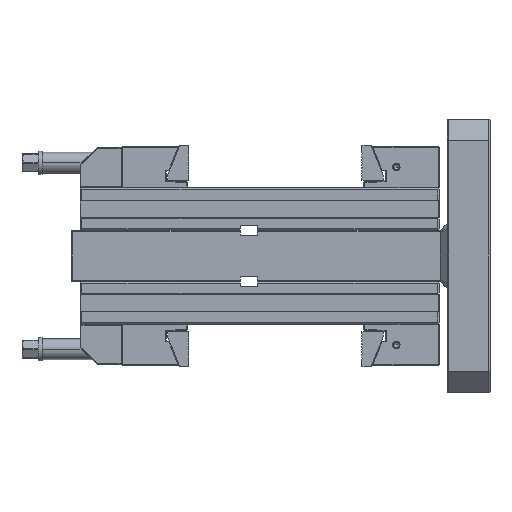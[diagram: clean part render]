
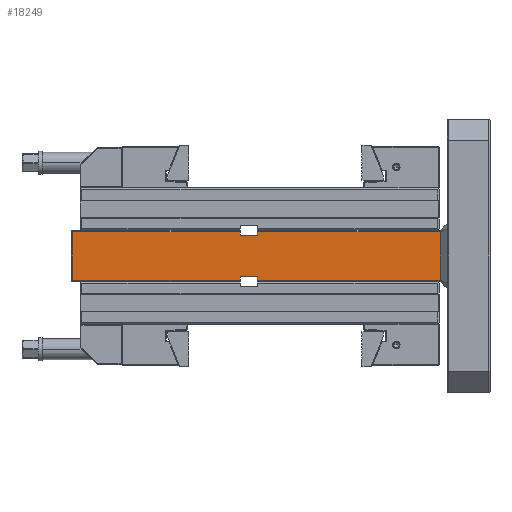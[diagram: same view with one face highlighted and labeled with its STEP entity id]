
A CAD part, left-side view. The second image highlights one B-rep face of the part: STEP entity #18249.
In plain terms, the highlighted planar face has unit normal (-1, 0, 0).
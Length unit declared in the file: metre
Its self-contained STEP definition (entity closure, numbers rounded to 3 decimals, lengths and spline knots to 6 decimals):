
#2440=DIRECTION('',(0.,0.,-1.));
#2441=VECTOR('',#2440,0.0045);
#2442=CARTESIAN_POINT('',(0.095,0.292,-0.184));
#2443=LINE('',#2442,#2441);
#2760=DIRECTION('',(0.,0.,1.));
#2761=VECTOR('',#2760,0.0045);
#2762=CARTESIAN_POINT('',(0.095,0.272,-0.1885));
#2763=LINE('',#2762,#2761);
#3841=DIRECTION('',(0.,1.,0.));
#3842=VECTOR('',#3841,0.214);
#3843=CARTESIAN_POINT('',(0.095,0.058,-0.1885));
#3844=LINE('',#3843,#3842);
#3845=DIRECTION('',(0.,0.,1.));
#3846=VECTOR('',#3845,0.057);
#3847=CARTESIAN_POINT('',(0.095,0.058,-0.1885));
#3848=LINE('',#3847,#3846);
#3853=DIRECTION('',(0.,-1.,0.));
#3854=VECTOR('',#3853,0.214);
#3855=CARTESIAN_POINT('',(0.095,0.272,-0.1315));
#3856=LINE('',#3855,#3854);
#4596=DIRECTION('',(0.,0.,-1.));
#4597=VECTOR('',#4596,0.0045);
#4598=CARTESIAN_POINT('',(0.095,0.292,-0.1315));
#4599=LINE('',#4598,#4597);
#4934=DIRECTION('',(0.,0.,1.));
#4935=VECTOR('',#4934,0.0045);
#4936=CARTESIAN_POINT('',(0.095,0.272,-0.136));
#4937=LINE('',#4936,#4935);
#7785=DIRECTION('',(0.,-1.,0.));
#7786=VECTOR('',#7785,0.02);
#7787=CARTESIAN_POINT('',(0.095,0.292,-0.136));
#7788=LINE('',#7787,#7786);
#9619=DIRECTION('',(0.,0.,1.));
#9620=VECTOR('',#9619,0.057);
#9621=CARTESIAN_POINT('',(0.095,0.4885,-0.1885));
#9622=LINE('',#9621,#9620);
#9639=DIRECTION('',(0.,-1.,0.));
#9640=VECTOR('',#9639,0.1965);
#9641=CARTESIAN_POINT('',(0.095,0.4885,-0.1315));
#9642=LINE('',#9641,#9640);
#9643=DIRECTION('',(0.,1.,0.));
#9644=VECTOR('',#9643,0.1965);
#9645=CARTESIAN_POINT('',(0.095,0.292,-0.1885));
#9646=LINE('',#9645,#9644);
#9735=DIRECTION('',(0.,1.,0.));
#9736=VECTOR('',#9735,0.02);
#9737=CARTESIAN_POINT('',(0.095,0.272,-0.184));
#9738=LINE('',#9737,#9736);
#10375=CARTESIAN_POINT('',(0.095,0.058,-0.1885));
#10376=CARTESIAN_POINT('',(0.095,0.058,-0.1315));
#10377=VERTEX_POINT('',#10375);
#10378=VERTEX_POINT('',#10376);
#10379=CARTESIAN_POINT('',(0.095,0.272,-0.1885));
#10380=VERTEX_POINT('',#10379);
#10381=CARTESIAN_POINT('',(0.095,0.272,-0.184));
#10382=VERTEX_POINT('',#10381);
#10383=CARTESIAN_POINT('',(0.095,0.292,-0.184));
#10384=VERTEX_POINT('',#10383);
#10385=CARTESIAN_POINT('',(0.095,0.292,-0.1885));
#10386=VERTEX_POINT('',#10385);
#10387=CARTESIAN_POINT('',(0.095,0.4885,-0.1885));
#10388=VERTEX_POINT('',#10387);
#10389=CARTESIAN_POINT('',(0.095,0.4885,-0.1315));
#10390=VERTEX_POINT('',#10389);
#10391=CARTESIAN_POINT('',(0.095,0.292,-0.1315));
#10392=VERTEX_POINT('',#10391);
#10393=CARTESIAN_POINT('',(0.095,0.292,-0.136));
#10394=VERTEX_POINT('',#10393);
#10395=CARTESIAN_POINT('',(0.095,0.272,-0.136));
#10396=VERTEX_POINT('',#10395);
#10397=CARTESIAN_POINT('',(0.095,0.272,-0.1315));
#10398=VERTEX_POINT('',#10397);
#18221=CARTESIAN_POINT('',(0.095,0.05,-0.13));
#18222=DIRECTION('',(1.,0.,0.));
#18223=DIRECTION('',(0.,1.,0.));
#18224=AXIS2_PLACEMENT_3D('',#18221,#18222,#18223);
#18225=PLANE('',#18224);
#18227=ORIENTED_EDGE('',*,*,#18226,.T.);
#18229=ORIENTED_EDGE('',*,*,#18228,.F.);
#18230=ORIENTED_EDGE('',*,*,#18212,.T.);
#18231=ORIENTED_EDGE('',*,*,#16628,.T.);
#18233=ORIENTED_EDGE('',*,*,#18232,.T.);
#18234=ORIENTED_EDGE('',*,*,#16177,.T.);
#18236=ORIENTED_EDGE('',*,*,#18235,.T.);
#18238=ORIENTED_EDGE('',*,*,#18237,.T.);
#18240=ORIENTED_EDGE('',*,*,#18239,.T.);
#18242=ORIENTED_EDGE('',*,*,#18241,.T.);
#18244=ORIENTED_EDGE('',*,*,#18243,.T.);
#18246=ORIENTED_EDGE('',*,*,#18245,.T.);
#18247=EDGE_LOOP('',(#18227,#18229,#18230,#18231,#18233,#18234,#18236,#18238,
#18240,#18242,#18244,#18246));
#18248=FACE_OUTER_BOUND('',#18247,.F.);
#18249=ADVANCED_FACE('',(#18248),#18225,.F.);
#16177=EDGE_CURVE('',#10384,#10386,#2443,.T.);
#16628=EDGE_CURVE('',#10380,#10382,#2763,.T.);
#18212=EDGE_CURVE('',#10377,#10380,#3844,.T.);
#18226=EDGE_CURVE('',#10398,#10378,#3856,.T.);
#18228=EDGE_CURVE('',#10377,#10378,#3848,.T.);
#18232=EDGE_CURVE('',#10382,#10384,#9738,.T.);
#18235=EDGE_CURVE('',#10386,#10388,#9646,.T.);
#18237=EDGE_CURVE('',#10388,#10390,#9622,.T.);
#18239=EDGE_CURVE('',#10390,#10392,#9642,.T.);
#18241=EDGE_CURVE('',#10392,#10394,#4599,.T.);
#18243=EDGE_CURVE('',#10394,#10396,#7788,.T.);
#18245=EDGE_CURVE('',#10396,#10398,#4937,.T.);
